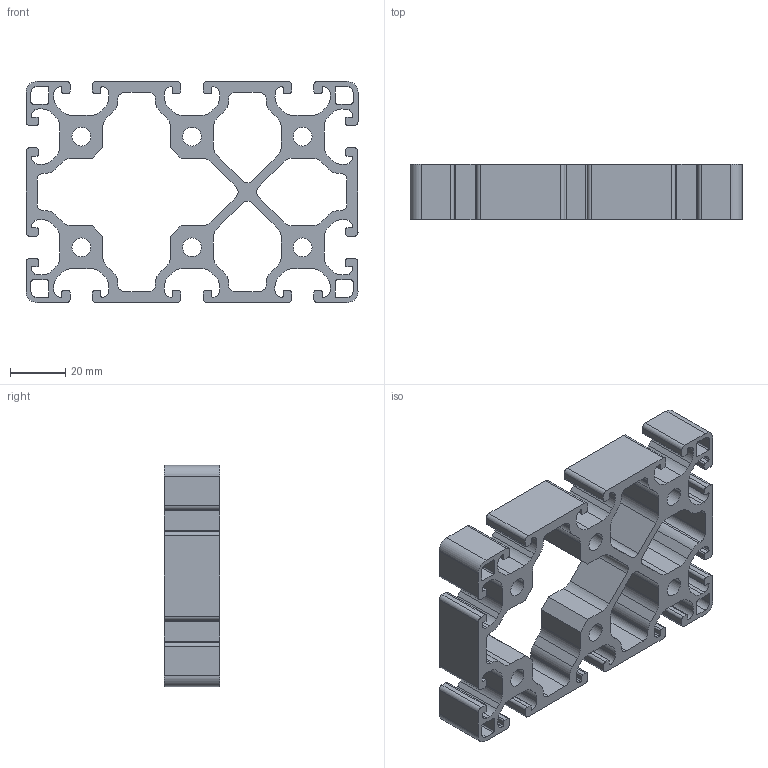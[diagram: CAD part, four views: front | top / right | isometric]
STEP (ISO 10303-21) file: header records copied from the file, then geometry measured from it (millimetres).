
FILE_DESCRIPTION(('STEP AP214'),'1');
FILE_NAME('cctmp_9AA3EC25-2410-4891-A885-799F56B0E002_2023_04_28_14_46_16_0134_16896..stp','2023-04-28T12:46:16',('item Industrietechnik GmbH'),('CADClick - www.CADClick.com'),'Spatial InterOp 3D',' ','unknown authorization');
FILE_SCHEMA(('AUTOMOTIVE_DESIGN'));
Length unit declared in the file: millimetre
Products named in the file (2): item_0041665_Profile 8 120x80 light_L=20; item_0041665_Profile 8 120x80 light_L=20_1
Assembly tree (1 placements, depth 2):
  item_0041665_Profile 8 120x80 light_L=20
    item_0041665_Profile 8 120x80 light_L=20_1
Bounding box: 120 x 20 x 80 mm (x, y, z)
Volume: 60810.6 mm3; surface area: 38155.5 mm2
Topology: 1 solids, 1 shells, 438 faces, 1308 edges, 872 vertices
Faces by surface type: cylinder 220, plane 218
Entity records: 18463 total; most frequent: DIRECTION 2628, CARTESIAN_POINT 2620, ORIENTED_EDGE 2616, EDGE_CURVE 1308, AXIS2_PLACEMENT_3D 880, VERTEX_POINT 872, LINE 868, VECTOR 868
